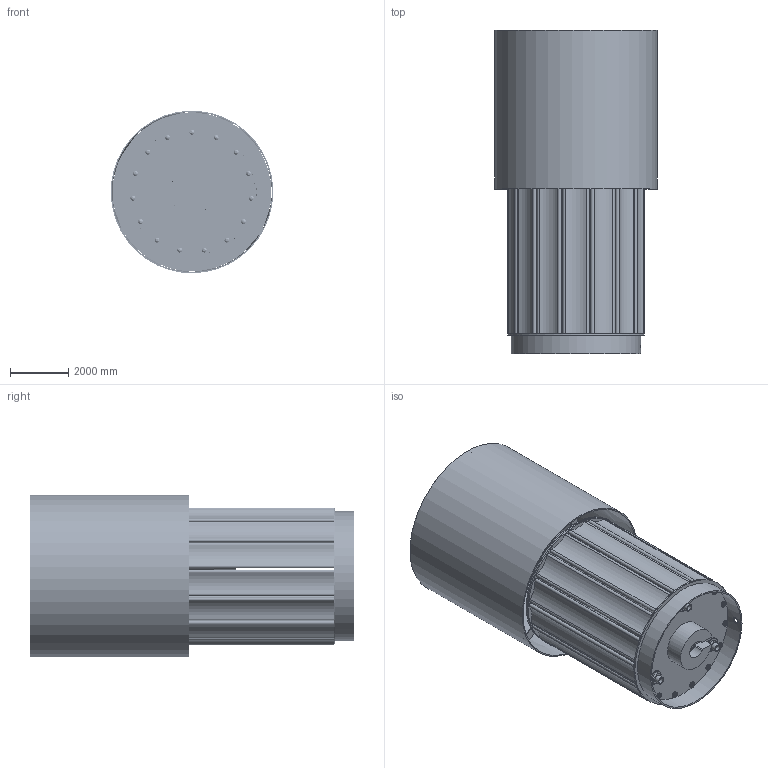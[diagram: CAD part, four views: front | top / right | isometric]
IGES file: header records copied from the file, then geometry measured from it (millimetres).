
Global section: file name: Chic Table Lamp; native system: AutoCAD 2022 - 简体中文 (Simplified Chinese),62HAuto; preprocessor: desk Translation Framework DWG producer (atf_dwg_producer); organization: unknown; date: 20251116.092645; units: inch
Bounding box: 5586.46 x 11125.2 x 5584.14 mm (x, y, z)
Volume: 35168757787.9 mm3; surface area: 674992280 mm2
Topology: 132 solids, 135 shells, 2392 faces, 5733 edges, 4091 vertices
Faces by surface type: bspline 2392
